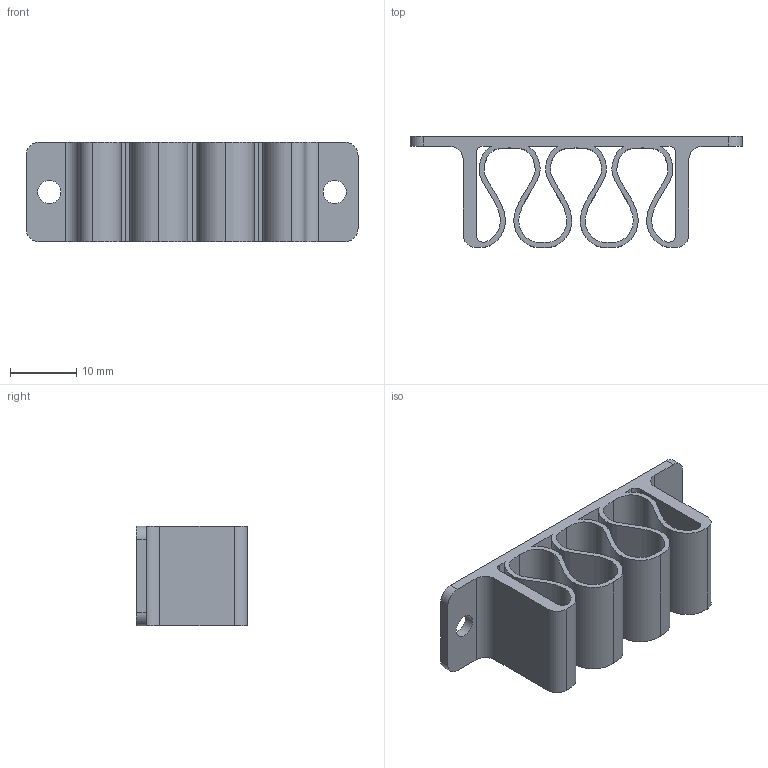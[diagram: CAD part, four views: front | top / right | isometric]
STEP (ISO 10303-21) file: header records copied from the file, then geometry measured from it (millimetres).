
FILE_DESCRIPTION(/* description */ ('Unknown'),/* implementation_level */ '2;1');
FILE_NAME(/* name */ 'UniversalCableHolder_3_slots',/* time_stamp */ '2025-01-23T14:25:12+01:00',/* author */ ('Unknown'),/* organization */ ('Unknown'),/* preprocessor_version */ 'ST-DEVELOPER v20',/* originating_system */ 'Solid Edge',/* authorisation */ 'Unknown');
FILE_SCHEMA (('AUTOMOTIVE_DESIGN {1 0 10303 214 3 1 1}'));
Length unit declared in the file: millimetre
Products named in the file (1): UniversalCableHolder_5_slots
Bounding box: 50 x 16.75 x 15 mm (x, y, z)
Volume: 3341.8 mm3; surface area: 6057.1 mm2
Topology: 1 solids, 1 shells, 41 faces, 117 edges, 78 vertices
Faces by surface type: plane 15, cylinder 14, bspline 12
Full cylindrical faces by diameter (mm): 3.5 x2
Entity records: 2035 total; most frequent: CARTESIAN_POINT 971, ORIENTED_EDGE 230, DIRECTION 179, EDGE_CURVE 115, VERTEX_POINT 78, LINE 63, VECTOR 63, AXIS2_PLACEMENT_3D 58
